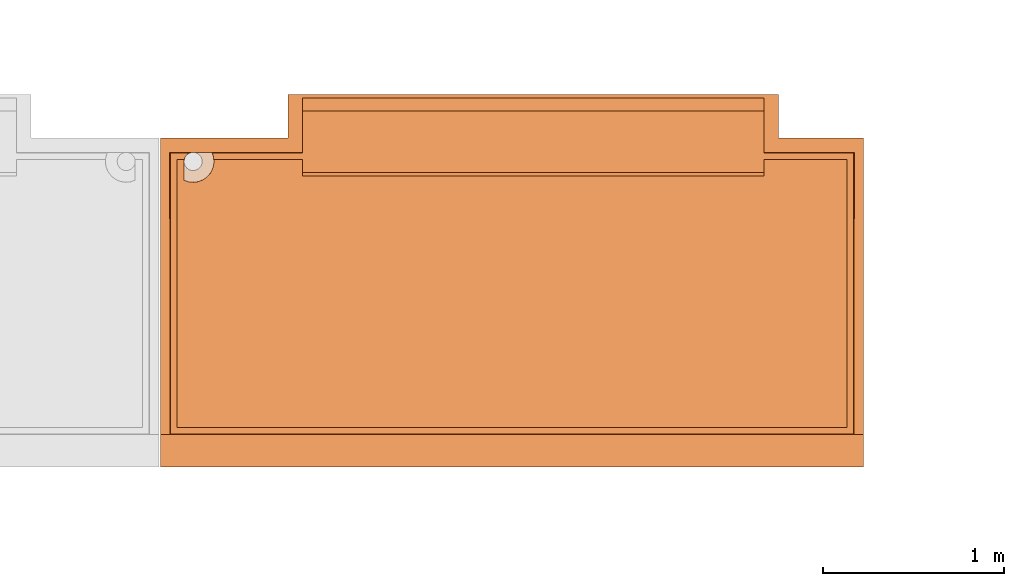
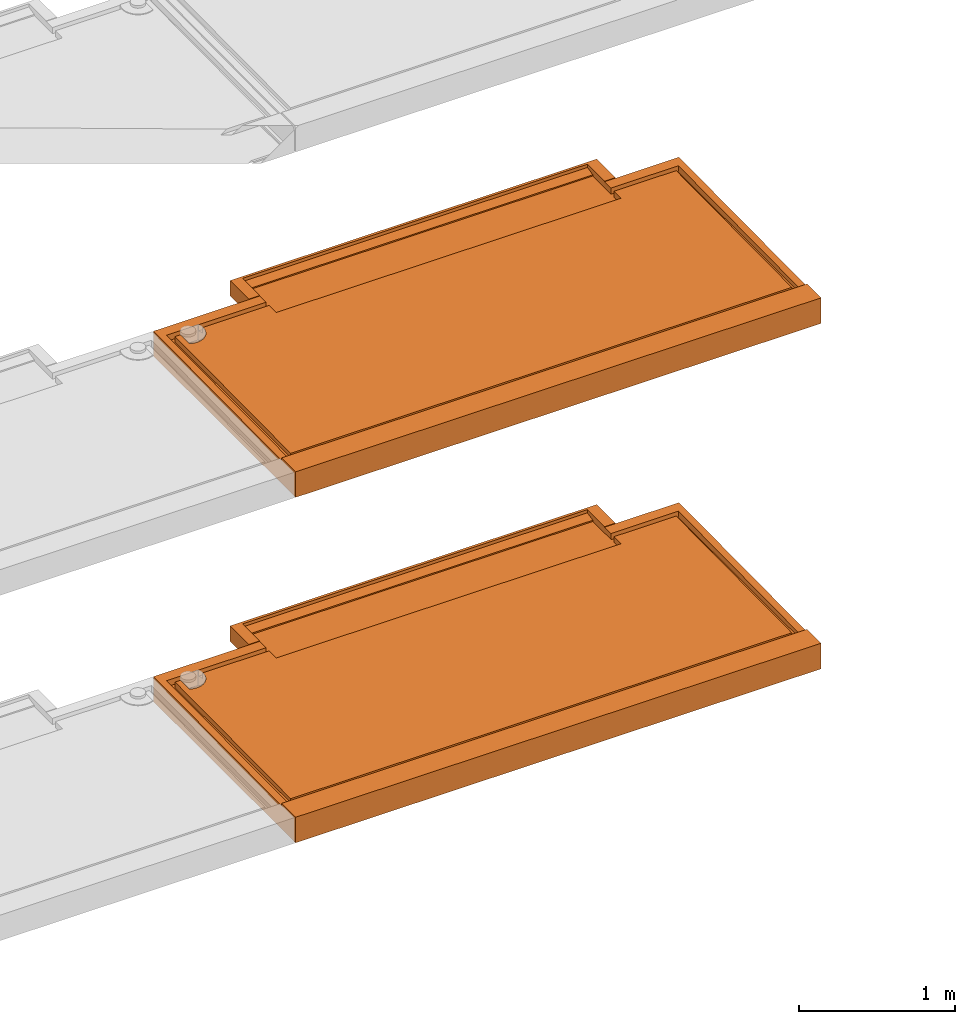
# One storey, part 11 of 31: 2 proxies, 2 elements without a shape of their own.
"""IFC2X3 building model written with IfcOpenShell, lengths in centimetres."""

from ifc_helpers import new_model, entity, si_unit, converted_unit, derived_unit, direction, frame, origin, place, context, subcontext, project, spatial, faceted_brep, source, transform, mapped, material, type_object, type_shapes, element, aggregate, save


model = new_model("IFC2X3")

# Units and contexts
model_context = context("Model", 3, precision=0.001, world=origin(), true_north=direction((6.12303176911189e-17, 1.0)))
body_context = subcontext(model_context, "Body", "Model", "MODEL_VIEW")
ifc_project = project(units=[si_unit("LENGTHUNIT", "METRE", prefix="CENTI"), si_unit("AREAUNIT", "SQUARE_METRE"), si_unit("VOLUMEUNIT", "CUBIC_METRE"), converted_unit("PLANEANGLEUNIT", "DEGREE", entity("IfcRatioMeasure", 0.0174532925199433), si_unit("PLANEANGLEUNIT", "RADIAN"), dimensions=[0, 0, 0, 0, 0, 0, 0]), si_unit("MASSUNIT", "GRAM", prefix="KILO"), derived_unit("MASSDENSITYUNIT", [(si_unit("MASSUNIT", "GRAM", prefix="KILO"), 1), (si_unit("LENGTHUNIT", "METRE"), -3)]), si_unit("TIMEUNIT", "SECOND"), si_unit("FREQUENCYUNIT", "HERTZ"), si_unit("THERMODYNAMICTEMPERATUREUNIT", "DEGREE_CELSIUS"), derived_unit("THERMALTRANSMITTANCEUNIT", [(si_unit("MASSUNIT", "GRAM", prefix="KILO"), 1), (si_unit("THERMODYNAMICTEMPERATUREUNIT", "KELVIN"), -1), (si_unit("TIMEUNIT", "SECOND"), -3)]), derived_unit("VOLUMETRICFLOWRATEUNIT", [(si_unit("LENGTHUNIT", "METRE"), 3), (si_unit("TIMEUNIT", "SECOND"), -1)]), si_unit("ELECTRICCURRENTUNIT", "AMPERE"), si_unit("ELECTRICVOLTAGEUNIT", "VOLT"), si_unit("POWERUNIT", "WATT"), si_unit("FORCEUNIT", "NEWTON"), si_unit("ILLUMINANCEUNIT", "LUX"), si_unit("LUMINOUSFLUXUNIT", "LUMEN"), si_unit("LUMINOUSINTENSITYUNIT", "CANDELA"), derived_unit("USERDEFINED", [(si_unit("MASSUNIT", "GRAM", prefix="KILO"), -1), (si_unit("LENGTHUNIT", "METRE"), -2), (si_unit("TIMEUNIT", "SECOND"), 3), (si_unit("LUMINOUSFLUXUNIT", "LUMEN"), 1)]), derived_unit("LINEARVELOCITYUNIT", [(si_unit("LENGTHUNIT", "METRE"), 1), (si_unit("TIMEUNIT", "SECOND"), -1)]), si_unit("PRESSUREUNIT", "PASCAL"), derived_unit("USERDEFINED", [(si_unit("LENGTHUNIT", "METRE"), -2), (si_unit("MASSUNIT", "GRAM", prefix="KILO"), 1), (si_unit("TIMEUNIT", "SECOND"), -2)])], contexts=[model_context])

# Site, building, storey
site_placement = place(None, origin())
site = spatial("IfcSite", under=ifc_project, at=site_placement, Name="Default", CompositionType="ELEMENT")
building_placement = place(site_placement, origin())
building = spatial("IfcBuilding", under=site, at=building_placement, Name="CAGE 03", CompositionType="ELEMENT")
storey_placement = place(building_placement, frame((0.0, 0.0, -400.0)))
storey = spatial("IfcBuildingStorey", under=building, at=storey_placement, Name="±0.00", CompositionType="ELEMENT", Elevation=-400.0)

# Assembly, proxy
assembly_1_placement = place(storey_placement, origin())
assembly_1 = element("IfcElementAssembly", 1, at=assembly_1_placement, inside=storey, Name="Assemblage Modèles génériques:BALCON TYPE 04", ObjectType="Assemblage Modèles génériques:BALCON TYPE 04", AssemblyPlace="NOTDEFINED", PredefinedType="USERDEFINED")
ifc_material = material(Name="Béton, panneaux préfa 30/37")
building_element_proxy_type_1 = type_object("IfcBuildingElementProxyType", Name="balcon préfa type 04", PredefinedType="NOTDEFINED", material=ifc_material)
shared_shape_1 = source(origin(), body_context, "Body", "Brep", [
    faceted_brep([(5.4374433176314, 173.562556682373, 15.0), (5.43744331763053, 18.437443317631, 15.0), (383.062556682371, 18.4374433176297, 15.0), (383.062556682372, 173.562556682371, 15.0), (333.500000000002, 173.562556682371, 15.0), (333.500000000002, 197.0, 15.0), (78.5000000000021, 197.0, 15.0), (78.5000000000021, 173.562556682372, 15.0), (28.556186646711, 173.562556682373, 15.0), (29.1495236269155, 171.817467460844, 15.0), (29.4564392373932, 170.0, 15.0), (78.5000000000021, 170.0, 15.0), (78.5000000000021, 163.0, 15.0), (333.500000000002, 163.0, 15.0), (333.500000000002, 170.0, 15.0), (379.500000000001, 170.0, 15.0), (379.5, 22.0, 15.0), (9.0, 22.0, 15.0), (9.0, 170.0, 15.0), (13.1010205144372, 170.0, 15.0), (13.4727634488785, 171.122293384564, 15.0), (14.0976215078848, 172.125930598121, 15.0), (14.9406592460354, 172.954798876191, 15.0), (15.9547429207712, 173.562556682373, 15.0), (70.5000000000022, 182.0, 20.0), (78.5000000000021, 182.0, 20.0), (78.5000000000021, 204.0, 20.0), (333.500000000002, 204.0, 20.0), (333.500000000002, 182.0, 20.0), (341.500000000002, 182.0, 20.0), (341.500000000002, 198.0, 20.0), (341.500000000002, 206.0, 20.0), (70.5000000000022, 206.0, 20.0), (70.5000000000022, 198.0, 20.0), (388.500000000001, 0.0, 20.0), (388.5, 18.0, 20.0), (0.0, 18.0, 20.0), (0.0, 0.0, 20.0), (70.5000000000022, 206.0, 8.0), (341.500000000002, 206.0, 8.0), (4.0, 180.0, 0.0), (14.46446609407, 172.535533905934, 0.0), (13.6698729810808, 171.500000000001, 0.0), (13.1703708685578, 170.294095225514, 0.0), (15.5000000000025, 173.330127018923, 0.0), (4.0, 182.0, 0.0), (13.0, 169.0, 0.0), (13.1703708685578, 167.705904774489, 0.0), (13.6698729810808, 166.500000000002, 0.0), (4.0, 4.0, 0.0), (16.7059047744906, 173.829629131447, 0.0), (18.0, 174.0, 0.0), (19.294095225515, 173.829629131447, 0.0), (20.5000000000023, 173.330127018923, 0.0), (384.500000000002, 182.0, 0.0), (21.5355339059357, 172.535533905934, 0.0), (22.3301270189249, 171.500000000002, 0.0), (22.8296291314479, 170.294095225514, 0.0), (23.0, 169.0, 0.0), (384.500000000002, 180.0, 0.0), (22.8296291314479, 167.705904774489, 0.0), (384.500000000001, 4.0, 0.0), (22.3301270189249, 166.500000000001, 0.0), (14.46446609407, 165.464466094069, 0.0), (15.5000000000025, 164.669872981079, 0.0), (16.7059047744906, 164.170370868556, 0.0), (18.0, 164.0, 0.0), (19.294095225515, 164.170370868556, 0.0), (20.5000000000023, 164.669872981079, 0.0), (21.5355339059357, 165.464466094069, 0.0), (0.0, 182.0, 0.0), (3.0, 182.0, 0.0), (3.0, 180.0, 0.0), (3.0, 3.0, 0.0), (385.500000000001, 3.0, 0.0), (385.500000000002, 180.0, 0.0), (385.500000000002, 182.0, 0.0), (388.500000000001, 182.0, 0.0), (388.500000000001, 180.0, 0.0), (388.500000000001, 0.0, 0.0), (0.0, 0.0, 0.0), (0.0, 180.0, 0.0), (5.04116008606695, 173.958839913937, 19.5295380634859), (17.3597604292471, 173.958839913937, 19.5295380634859), (17.6792193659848, 173.989699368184, 19.529846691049), (18.0, 174.0, 19.5299497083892), (28.3561575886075, 174.0, 19.5299497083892), (28.3660638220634, 173.979429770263, 19.5297439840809), (28.3759291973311, 173.958839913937, 19.5295380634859), (78.5000000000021, 173.958839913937, 19.5295380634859), (78.5000000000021, 180.0, 19.5899561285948), (78.5000000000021, 182.0, 19.6099582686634), (70.5000000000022, 182.0, 19.6099582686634), (0.0, 182.0, 19.6099582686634), (0.0, 180.0, 19.5899561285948), (0.0, 18.1774657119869, 17.9715576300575), (5.1774657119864, 18.1774657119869, 17.9715576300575), (9.0, 22.0, 18.0097870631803), (379.5, 22.0, 18.0097870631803), (379.5, 170.0, 19.4899454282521), (333.500000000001, 170.0, 19.4899454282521), (333.500000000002, 161.001802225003, 19.3999538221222), (78.5000000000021, 161.001802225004, 19.3999538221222), (78.5000000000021, 170.0, 19.4899454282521), (29.4564392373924, 170.0, 19.4899454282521), (29.3757731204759, 167.314240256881, 19.463084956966), (28.6740790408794, 164.720509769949, 19.4371448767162), (27.3896639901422, 162.360405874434, 19.413541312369), (25.5926469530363, 160.362771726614, 19.3935628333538), (23.3811309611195, 158.836662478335, 19.3783001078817), (20.8758474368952, 157.865391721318, 19.3685863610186), (18.2135652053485, 157.501983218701, 19.3649518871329), (15.5396239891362, 157.76627622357, 19.3675950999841), (13.0, 158.643842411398, 19.3763717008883), (13.0, 169.0, 19.4799443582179), (13.0253192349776, 169.502544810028, 19.4849703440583), (13.1010205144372, 170.0, 19.4899454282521), (9.0, 170.0, 19.4899454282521), (333.500000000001, 180.0, 19.5899561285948), (333.500000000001, 173.958839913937, 19.5295380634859), (383.458839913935, 173.958839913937, 19.5295380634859), (383.322534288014, 18.1774657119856, 17.9715576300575), (388.5, 18.177465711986, 17.9715576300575), (388.500000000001, 180.0, 19.5899561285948), (388.500000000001, 182.0, 19.6099582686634), (341.500000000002, 182.0, 19.6099582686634), (333.500000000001, 182.0, 19.6099582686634), (333.500000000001, 197.0, 15.9713250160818), (333.500000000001, 204.0, 17.4999999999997), (333.500000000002, 163.0, 16.9198129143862), (333.500000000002, 161.026803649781, 16.9000788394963), (16.2941522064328, 173.700008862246, 16.5710856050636), (16.6427110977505, 173.812251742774, 17.8540276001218), (16.9985500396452, 173.898683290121, 18.8419447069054), (28.3874297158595, 173.934178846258, 19.2476607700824), (28.398930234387, 173.909517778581, 18.9657834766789), (28.4219312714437, 173.860195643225, 18.4020288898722), (28.4679333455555, 173.761551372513, 17.2745197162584), (28.5120599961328, 173.662054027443, 16.137259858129), (4.0, 4.0, 1.46630765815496), (384.5, 4.0, 1.46630765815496), (385.5, 3.0, 1.0), (3.0, 3.0, 1.0), (78.5000000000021, 204.0, 17.4999999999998), (70.5000000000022, 198.0, 8.0), (341.500000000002, 198.0, 8.0), (341.500000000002, 182.0, 8.0), (70.5000000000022, 182.0, 8.0), (385.500000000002, 182.0, 1.0), (384.500000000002, 182.0, 1.46630765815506), (4.0, 182.0, 1.46630765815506), (3.0, 182.0, 1.0), (78.5000000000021, 197.0, 15.9713250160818), (78.5000000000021, 161.026803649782, 16.9000788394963), (78.5000000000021, 163.0, 16.9198129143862), (385.500000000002, 180.0, 1.0), (384.500000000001, 180.0, 1.46630765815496), (3.0, 180.0, 1.0), (4.0, 180.0, 1.46630765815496), (15.6842282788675, 157.735578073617, 7.69999999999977), (18.509066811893, 157.511272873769, 7.69999999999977), (21.3029955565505, 157.984546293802, 7.69999999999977), (23.8963712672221, 159.12666186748, 7.69999999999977), (26.1317279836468, 160.868272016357, 7.69999999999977), (27.8733381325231, 163.103628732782, 7.69999999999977), (29.0154537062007, 165.697004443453, 7.69999999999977), (29.4887271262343, 168.490933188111, 7.69999999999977), (29.2644219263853, 171.315771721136, 7.69999999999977), (28.3561575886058, 174.0, 7.69999999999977), (18.0, 174.0, 7.69999999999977), (19.2940952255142, 173.829629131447, 7.69999999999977), (20.5000000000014, 173.330127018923, 7.69999999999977), (21.535533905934, 172.535533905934, 7.69999999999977), (22.3301270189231, 171.500000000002, 7.69999999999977), (22.8296291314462, 170.294095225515, 7.69999999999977), (23.0, 169.0, 7.69999999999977), (22.829629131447, 167.70590477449, 7.69999999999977), (22.330127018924, 166.500000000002, 7.69999999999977), (21.5355339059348, 165.464466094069, 7.69999999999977), (20.5000000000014, 164.669872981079, 7.69999999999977), (19.2940952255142, 164.170370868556, 7.69999999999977), (18.0, 164.0, 7.69999999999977), (16.7059047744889, 164.170370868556, 7.69999999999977), (15.5000000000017, 164.669872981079, 7.69999999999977), (14.4644660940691, 165.464466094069, 7.69999999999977), (13.66987298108, 166.500000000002, 7.69999999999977), (13.1703708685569, 167.705904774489, 7.69999999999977), (13.0, 169.0, 7.69999999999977), (13.0, 158.643842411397, 7.69999999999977), (28.3561575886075, 174.0, 15.0937185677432), (28.3561575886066, 174.0, 16.5724622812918), (28.3561575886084, 174.0, 18.0512059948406), (28.3561575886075, 174.0, 13.6149748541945), (28.3561575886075, 174.0, 18.7905778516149), (28.3561575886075, 174.0, 19.1602637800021)], [[[0, 1, 2, 3, 4, 5, 6, 7, 8, 9, 10, 11, 12, 13, 14, 15, 16, 17, 18, 19, 20, 21, 22, 23]], [[24, 25, 26, 27, 28, 29, 30, 31, 32, 33]], [[34, 35, 36, 37]], [[38, 32, 31, 39]], [[40, 41, 42]], [[40, 42, 43]], [[44, 41, 40]], [[44, 40, 45]], [[43, 46, 40]], [[47, 40, 46]], [[40, 47, 48]], [[40, 48, 49]], [[50, 44, 45]], [[51, 50, 45]], [[45, 52, 51]], [[52, 45, 53]], [[45, 54, 53]], [[55, 53, 54]], [[54, 56, 55]], [[57, 56, 54]], [[57, 54, 58]], [[54, 59, 58]], [[58, 59, 60]], [[59, 61, 60]], [[61, 49, 62]], [[61, 62, 60]], [[48, 63, 49]], [[63, 64, 49]], [[64, 65, 49]], [[66, 49, 65]], [[67, 49, 66]], [[68, 49, 67]], [[49, 68, 69]], [[62, 49, 69]], [[70, 71, 72, 73, 74, 75, 76, 77, 78, 79, 80, 81]], [[37, 80, 79, 34]], [[82, 83, 84, 85, 86, 87, 88, 89, 90, 91, 92, 93, 94, 95, 96]], [[97, 98, 99, 100, 101, 102, 103, 104, 105, 106, 107, 108, 109, 110, 111, 112, 113, 114, 115, 116, 117]], [[118, 119, 120, 121, 122, 123, 124, 125, 126]], [[78, 77, 124, 123, 122, 35, 34, 79]], [[121, 2, 1, 96, 95, 36, 35, 122]], [[127, 5, 4, 119, 118, 126, 28, 27, 128]], [[100, 14, 13, 129, 130, 101]], [[23, 131, 132, 133, 83, 82, 0]], [[3, 120, 119, 4]], [[89, 88, 134, 135, 136, 137, 138, 8, 7]], [[17, 16, 98, 97]], [[139, 140, 141, 142]], [[26, 143, 128, 27]], [[144, 38, 39, 145, 146, 147]], [[93, 92, 147, 146, 125, 124, 77, 76, 148, 149, 54, 45, 150, 151, 71, 70]], [[143, 26, 25, 91, 90, 89, 7, 6, 152]], [[103, 102, 153, 154, 12, 11]], [[116, 19, 18, 117]], [[15, 14, 100, 99]], [[103, 11, 10, 104]], [[139, 49, 61, 140]], [[152, 6, 5, 127]], [[18, 17, 97, 117]], [[153, 102, 101, 130]], [[154, 153, 130, 129]], [[12, 154, 129, 13]], [[80, 37, 36, 95, 94, 93, 70, 81]], [[142, 141, 74, 73]], [[143, 152, 127, 128]], [[0, 82, 96, 1]], [[29, 28, 126, 125]], [[25, 24, 92, 91]], [[76, 75, 74, 141, 155, 148]], [[156, 140, 61, 59, 54, 149]], [[155, 141, 140, 156, 149, 148]], [[73, 72, 71, 151, 157, 142]], [[158, 150, 45, 40, 49, 139]], [[139, 142, 157, 151, 150, 158]], [[98, 16, 15, 99]], [[121, 120, 3, 2]], [[30, 29, 125, 146, 145, 39, 31]], [[33, 32, 38, 144, 147, 92, 24]], [[159, 160, 161, 162, 163, 164, 165, 166, 167, 168, 169, 170, 171, 172, 173, 174, 175, 176, 177, 178, 179, 180, 181, 182, 183, 184, 185, 186, 187, 188]], [[187, 114, 113, 188]], [[159, 188, 112]], [[159, 111, 160]], [[108, 163, 162]], [[162, 161, 109]], [[161, 160, 110]], [[164, 163, 107]], [[8, 138, 189]], [[188, 113, 112]], [[159, 112, 111]], [[189, 138, 190]], [[191, 190, 137]], [[161, 110, 109]], [[138, 137, 190]], [[163, 108, 107]], [[108, 162, 109]], [[189, 192, 8]], [[110, 160, 111]], [[88, 87, 134]], [[107, 106, 164]], [[166, 165, 105]], [[167, 166, 10]], [[10, 166, 105]], [[9, 168, 167]], [[193, 191, 136]], [[192, 168, 9]], [[192, 9, 8]], [[10, 9, 167]], [[194, 134, 87]], [[105, 165, 106]], [[104, 10, 105]], [[87, 86, 194]], [[136, 191, 137]], [[136, 135, 193]], [[135, 134, 194]], [[194, 193, 135]], [[164, 106, 165]], [[85, 169, 168, 192, 189, 190, 191, 193, 194, 86]], [[48, 47, 186, 185]], [[48, 185, 184, 63]], [[65, 64, 183, 182]], [[184, 183, 64, 63]], [[66, 65, 182, 181]], [[46, 187, 186, 47]], [[68, 67, 180, 179]], [[68, 179, 178, 69]], [[60, 62, 177, 176]], [[178, 177, 62, 69]], [[58, 60, 176, 175]], [[181, 180, 67, 66]], [[57, 174, 173, 56]], [[58, 175, 174, 57]], [[171, 170, 52, 53]], [[53, 55, 172, 171]], [[55, 56, 173, 172]], [[51, 52, 170, 169]], [[85, 84, 169]], [[83, 169, 84]], [[133, 169, 83]], [[50, 51, 169]], [[23, 44, 50]], [[44, 23, 22]], [[22, 41, 44]], [[131, 23, 50]], [[187, 46, 43]], [[42, 41, 21]], [[42, 20, 43]], [[22, 21, 41]], [[43, 19, 187]], [[132, 50, 133]], [[131, 50, 132]], [[42, 21, 20]], [[116, 115, 19]], [[115, 187, 19]], [[115, 114, 187]], [[20, 19, 43]], [[169, 133, 50]]]),
])
type_shapes(building_element_proxy_type_1, [shared_shape_1])
proxy_1_placement = place(assembly_1_placement, frame((7081.86582014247, 3796.6606660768, 990.0)))
proxy_1 = element("IfcBuildingElementProxy", 2, at=proxy_1_placement, type_object=building_element_proxy_type_1, material=ifc_material, Name="BY_STR_Balcon_préfa_04:balcon préfa type 04", ObjectType="balcon préfa type 04", context=body_context, shape_type="MappedRepresentation", body=[
    mapped(shared_shape_1, transform((0.0, 0.0, 0.0), scale=1.0)),
])
aggregate(assembly_1, [proxy_1])

assembly_2_placement = place(storey_placement, origin())
assembly_2 = element("IfcElementAssembly", 3, at=assembly_2_placement, inside=storey, Name="Assemblage Modèles génériques:BALCON TYPE 04", ObjectType="Assemblage Modèles génériques:BALCON TYPE 04", AssemblyPlace="NOTDEFINED", PredefinedType="USERDEFINED")
building_element_proxy_type_2 = type_object("IfcBuildingElementProxyType", Name="balcon préfa type 04", PredefinedType="NOTDEFINED", material=ifc_material)
shared_shape_2 = source(origin(), body_context, "Body", "Brep", [
    faceted_brep([(5.4374433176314, 173.562556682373, 15.0), (5.43744331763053, 18.437443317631, 15.0), (383.062556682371, 18.4374433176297, 15.0), (383.062556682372, 173.562556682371, 15.0), (333.500000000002, 173.562556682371, 15.0), (333.500000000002, 197.0, 15.0), (78.5000000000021, 197.0, 15.0), (78.5000000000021, 173.562556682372, 15.0), (28.5561866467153, 173.562556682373, 15.0), (29.1495236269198, 171.817467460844, 15.0), (29.4564392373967, 170.0, 15.0), (78.5000000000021, 170.0, 15.0), (78.5000000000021, 163.0, 15.0), (333.500000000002, 163.0, 15.0), (333.500000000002, 170.0, 15.0), (379.500000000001, 170.0, 15.0), (379.5, 22.0, 15.0), (9.0, 22.0, 15.0), (9.0, 170.0, 15.0), (13.1010205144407, 170.0, 15.0), (13.4727634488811, 171.122293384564, 15.0), (14.0976215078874, 172.12593059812, 15.0), (14.940659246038, 172.954798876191, 15.0), (15.9547429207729, 173.562556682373, 15.0), (70.5000000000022, 182.0, 20.0), (78.5000000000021, 182.0, 20.0), (78.5000000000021, 204.0, 20.0), (333.500000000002, 204.0, 20.0), (333.500000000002, 182.0, 20.0), (341.500000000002, 182.0, 20.0), (341.500000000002, 198.0, 20.0), (341.500000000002, 206.0, 20.0), (70.5000000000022, 206.0, 20.0), (70.5000000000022, 198.0, 20.0), (388.500000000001, 0.0, 20.0), (388.5, 18.0, 20.0), (0.0, 18.0, 20.0), (0.0, 0.0, 20.0), (70.5000000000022, 206.0, 8.0), (341.500000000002, 206.0, 8.0), (4.0, 180.0, 0.0), (14.4644660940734, 172.535533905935, 0.0), (13.6698729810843, 171.500000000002, 0.0), (13.1703708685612, 170.294095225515, 0.0), (15.500000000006, 173.330127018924, 0.0), (4.0, 182.0, 0.0), (13.0, 169.0, 0.0), (13.1703708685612, 167.70590477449, 0.0), (13.6698729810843, 166.500000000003, 0.0), (4.0, 4.0, 0.0), (16.7059047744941, 173.829629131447, 0.0), (18.0, 174.0, 0.0), (19.2940952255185, 173.829629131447, 0.0), (20.5000000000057, 173.330127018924, 0.0), (384.500000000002, 182.0, 0.0), (21.5355339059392, 172.535533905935, 0.0), (22.3301270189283, 171.500000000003, 0.0), (22.8296291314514, 170.294095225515, 0.0), (23.0, 169.0, 0.0), (384.500000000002, 180.0, 0.0), (22.8296291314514, 167.70590477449, 0.0), (384.500000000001, 4.0, 0.0), (22.3301270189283, 166.500000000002, 0.0), (14.4644660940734, 165.464466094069, 0.0), (15.500000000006, 164.66987298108, 0.0), (16.7059047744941, 164.170370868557, 0.0), (18.0, 164.0, 0.0), (19.2940952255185, 164.170370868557, 0.0), (20.5000000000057, 164.66987298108, 0.0), (21.5355339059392, 165.464466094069, 0.0), (0.0, 182.0, 0.0), (3.0, 182.0, 0.0), (3.0, 180.0, 0.0), (3.0, 3.0, 0.0), (385.500000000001, 3.0, 0.0), (385.500000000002, 180.0, 0.0), (385.500000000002, 182.0, 0.0), (388.500000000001, 182.0, 0.0), (388.500000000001, 180.0, 0.0), (388.500000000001, 0.0, 0.0), (0.0, 0.0, 0.0), (0.0, 180.0, 0.0), (5.04116008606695, 173.958839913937, 19.5295380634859), (17.3597604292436, 173.958839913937, 19.5295380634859), (17.6792193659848, 173.989699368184, 19.529846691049), (18.0, 174.0, 19.5299497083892), (28.3561575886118, 174.0, 19.5299497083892), (28.3660638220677, 173.979429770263, 19.5297439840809), (28.3759291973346, 173.958839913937, 19.5295380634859), (78.5000000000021, 173.958839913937, 19.5295380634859), (78.5000000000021, 180.0, 19.5899561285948), (78.5000000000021, 182.0, 19.6099582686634), (70.5000000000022, 182.0, 19.6099582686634), (0.0, 182.0, 19.6099582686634), (0.0, 180.0, 19.5899561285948), (0.0, 18.1774657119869, 17.9715576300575), (5.1774657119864, 18.1774657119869, 17.9715576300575), (9.0, 22.0, 18.0097870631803), (379.5, 22.0, 18.0097870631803), (379.5, 170.0, 19.4899454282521), (333.500000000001, 170.0, 19.4899454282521), (333.500000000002, 161.001802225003, 19.3999538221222), (78.5000000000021, 161.001802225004, 19.3999538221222), (78.5000000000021, 170.0, 19.4899454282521), (29.4564392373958, 170.0, 19.4899454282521), (29.3757731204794, 167.314240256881, 19.463084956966), (28.6740790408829, 164.720509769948, 19.4371448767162), (27.3896639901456, 162.360405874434, 19.413541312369), (25.5926469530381, 160.362771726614, 19.3935628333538), (23.3811309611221, 158.836662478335, 19.3783001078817), (20.8758474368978, 157.865391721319, 19.3685863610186), (18.2135652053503, 157.501983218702, 19.3649518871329), (15.5396239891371, 157.766276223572, 19.3675950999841), (13.0, 158.643842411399, 19.3763717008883), (13.0, 169.0, 19.4799443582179), (13.0253192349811, 169.502544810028, 19.4849703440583), (13.1010205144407, 170.0, 19.4899454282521), (9.0, 170.0, 19.4899454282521), (333.500000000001, 180.0, 19.5899561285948), (333.500000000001, 173.958839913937, 19.5295380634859), (383.458839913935, 173.958839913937, 19.5295380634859), (383.322534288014, 18.1774657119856, 17.9715576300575), (388.5, 18.177465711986, 17.9715576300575), (388.500000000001, 180.0, 19.5899561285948), (388.500000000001, 182.0, 19.6099582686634), (341.500000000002, 182.0, 19.6099582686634), (333.500000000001, 182.0, 19.6099582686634), (333.500000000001, 197.0, 15.9713250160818), (333.500000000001, 204.0, 17.4999999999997), (333.500000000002, 163.0, 16.9198129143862), (333.500000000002, 161.026803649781, 16.9000788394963), (16.2941522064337, 173.700008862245, 16.5710856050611), (16.6427110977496, 173.812251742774, 17.854027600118), (16.9985500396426, 173.898683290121, 18.8419447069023), (28.387429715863, 173.934178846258, 19.2476607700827), (28.3989302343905, 173.909517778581, 18.9657834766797), (28.4219312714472, 173.860195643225, 18.4020288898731), (28.4679333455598, 173.761551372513, 17.2745197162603), (28.5120599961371, 173.662054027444, 16.1372598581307), (4.0, 4.0, 1.46630765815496), (384.5, 4.0, 1.46630765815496), (385.5, 3.0, 1.0), (3.0, 3.0, 1.0), (78.5000000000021, 204.0, 17.4999999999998), (70.5000000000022, 198.0, 8.0), (341.500000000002, 198.0, 8.0), (341.500000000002, 182.0, 8.0), (70.5000000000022, 182.0, 8.0), (385.500000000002, 182.0, 1.0), (384.500000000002, 182.0, 1.46630765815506), (4.0, 182.0, 1.46630765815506), (3.0, 182.0, 1.0), (78.5000000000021, 197.0, 15.9713250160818), (78.5000000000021, 161.026803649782, 16.9000788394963), (78.5000000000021, 163.0, 16.9198129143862), (385.500000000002, 180.0, 1.0), (384.500000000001, 180.0, 1.46630765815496), (3.0, 180.0, 1.0), (4.0, 180.0, 1.46630765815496), (15.6842282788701, 157.735578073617, 7.69999999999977), (18.5090668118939, 157.511272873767, 7.69999999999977), (21.3029955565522, 157.984546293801, 7.69999999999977), (23.896371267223, 159.126661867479, 7.69999999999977), (26.1317279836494, 160.868272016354, 7.69999999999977), (27.8733381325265, 163.10362873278, 7.69999999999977), (29.0154537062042, 165.697004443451, 7.69999999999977), (29.4887271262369, 168.490933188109, 7.69999999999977), (29.2644219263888, 171.315771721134, 7.69999999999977), (28.3561575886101, 174.0, 7.69999999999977), (18.0, 174.0, 7.69999999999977), (19.2940952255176, 173.829629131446, 7.69999999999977), (20.5000000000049, 173.330127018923, 7.69999999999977), (21.5355339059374, 172.535533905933, 7.69999999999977), (22.3301270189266, 171.500000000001, 7.69999999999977), (22.8296291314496, 170.294095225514, 7.69999999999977), (23.0, 169.0, 7.69999999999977), (22.8296291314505, 167.705904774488, 7.69999999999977), (22.3301270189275, 166.500000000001, 7.69999999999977), (21.5355339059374, 165.464466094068, 7.69999999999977), (20.5000000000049, 164.669872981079, 7.69999999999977), (19.2940952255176, 164.170370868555, 7.69999999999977), (18.0, 164.0, 7.69999999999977), (16.7059047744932, 164.170370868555, 7.69999999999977), (15.500000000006, 164.669872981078, 7.69999999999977), (14.4644660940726, 165.464466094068, 7.69999999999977), (13.6698729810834, 166.5, 7.69999999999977), (13.1703708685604, 167.705904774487, 7.69999999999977), (13.0, 169.0, 7.69999999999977), (13.0, 158.643842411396, 7.69999999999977), (28.3561575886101, 174.0, 15.0937185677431), (28.3561575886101, 174.0, 16.5724622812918), (28.356157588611, 174.0, 18.0512059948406), (28.356157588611, 174.0, 13.6149748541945), (28.356157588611, 174.0, 18.7905778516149), (28.356157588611, 174.0, 19.1602637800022)], [[[0, 1, 2, 3, 4, 5, 6, 7, 8, 9, 10, 11, 12, 13, 14, 15, 16, 17, 18, 19, 20, 21, 22, 23]], [[24, 25, 26, 27, 28, 29, 30, 31, 32, 33]], [[34, 35, 36, 37]], [[38, 32, 31, 39]], [[40, 41, 42]], [[40, 42, 43]], [[44, 41, 40]], [[44, 40, 45]], [[43, 46, 40]], [[47, 40, 46]], [[40, 47, 48]], [[40, 48, 49]], [[50, 44, 45]], [[51, 50, 45]], [[45, 52, 51]], [[52, 45, 53]], [[45, 54, 53]], [[55, 53, 54]], [[54, 56, 55]], [[57, 56, 54]], [[57, 54, 58]], [[54, 59, 58]], [[58, 59, 60]], [[59, 61, 60]], [[61, 49, 62]], [[61, 62, 60]], [[48, 63, 49]], [[63, 64, 49]], [[64, 65, 49]], [[66, 49, 65]], [[67, 49, 66]], [[68, 49, 67]], [[49, 68, 69]], [[62, 49, 69]], [[70, 71, 72, 73, 74, 75, 76, 77, 78, 79, 80, 81]], [[37, 80, 79, 34]], [[82, 83, 84, 85, 86, 87, 88, 89, 90, 91, 92, 93, 94, 95, 96]], [[97, 98, 99, 100, 101, 102, 103, 104, 105, 106, 107, 108, 109, 110, 111, 112, 113, 114, 115, 116, 117]], [[118, 119, 120, 121, 122, 123, 124, 125, 126]], [[78, 77, 124, 123, 122, 35, 34, 79]], [[121, 2, 1, 96, 95, 36, 35, 122]], [[127, 5, 4, 119, 118, 126, 28, 27, 128]], [[100, 14, 13, 129, 130, 101]], [[23, 131, 132, 133, 83, 82, 0]], [[3, 120, 119, 4]], [[89, 88, 134, 135, 136, 137, 138, 8, 7]], [[17, 16, 98, 97]], [[139, 140, 141, 142]], [[26, 143, 128, 27]], [[144, 38, 39, 145, 146, 147]], [[93, 92, 147, 146, 125, 124, 77, 76, 148, 149, 54, 45, 150, 151, 71, 70]], [[143, 26, 25, 91, 90, 89, 7, 6, 152]], [[103, 102, 153, 154, 12, 11]], [[116, 19, 18, 117]], [[15, 14, 100, 99]], [[103, 11, 10, 104]], [[139, 49, 61, 140]], [[152, 6, 5, 127]], [[18, 17, 97, 117]], [[153, 102, 101, 130]], [[154, 153, 130, 129]], [[12, 154, 129, 13]], [[80, 37, 36, 95, 94, 93, 70, 81]], [[142, 141, 74, 73]], [[143, 152, 127, 128]], [[0, 82, 96, 1]], [[29, 28, 126, 125]], [[25, 24, 92, 91]], [[76, 75, 74, 141, 155, 148]], [[156, 140, 61, 59, 54, 149]], [[155, 141, 140, 156, 149, 148]], [[73, 72, 71, 151, 157, 142]], [[158, 150, 45, 40, 49, 139]], [[139, 142, 157, 151, 150, 158]], [[98, 16, 15, 99]], [[121, 120, 3, 2]], [[30, 29, 125, 146, 145, 39, 31]], [[33, 32, 38, 144, 147, 92, 24]], [[159, 160, 161, 162, 163, 164, 165, 166, 167, 168, 169, 170, 171, 172, 173, 174, 175, 176, 177, 178, 179, 180, 181, 182, 183, 184, 185, 186, 187, 188]], [[187, 114, 113, 188]], [[159, 188, 112]], [[159, 111, 160]], [[108, 163, 162]], [[162, 161, 109]], [[161, 160, 110]], [[164, 163, 107]], [[8, 138, 189]], [[188, 113, 112]], [[159, 112, 111]], [[189, 138, 190]], [[191, 190, 137]], [[161, 110, 109]], [[138, 137, 190]], [[163, 108, 107]], [[108, 162, 109]], [[189, 192, 8]], [[110, 160, 111]], [[88, 87, 134]], [[107, 106, 164]], [[166, 165, 105]], [[167, 166, 10]], [[10, 166, 105]], [[9, 168, 167]], [[193, 191, 136]], [[192, 168, 9]], [[192, 9, 8]], [[10, 9, 167]], [[194, 134, 87]], [[105, 165, 106]], [[104, 10, 105]], [[87, 86, 194]], [[136, 191, 137]], [[136, 135, 193]], [[135, 134, 194]], [[194, 193, 135]], [[164, 106, 165]], [[85, 169, 168, 192, 189, 190, 191, 193, 194, 86]], [[48, 47, 186, 185]], [[48, 185, 184, 63]], [[65, 64, 183, 182]], [[184, 183, 64, 63]], [[66, 65, 182, 181]], [[46, 187, 186, 47]], [[68, 67, 180, 179]], [[68, 179, 178, 69]], [[60, 62, 177, 176]], [[178, 177, 62, 69]], [[58, 60, 176, 175]], [[181, 180, 67, 66]], [[57, 174, 173, 56]], [[58, 175, 174, 57]], [[171, 170, 52, 53]], [[53, 55, 172, 171]], [[55, 56, 173, 172]], [[51, 52, 170, 169]], [[85, 84, 169]], [[83, 169, 84]], [[133, 169, 83]], [[50, 51, 169]], [[23, 44, 50]], [[44, 23, 22]], [[22, 41, 44]], [[131, 23, 50]], [[187, 46, 43]], [[42, 41, 21]], [[42, 20, 43]], [[22, 21, 41]], [[43, 19, 187]], [[132, 50, 133]], [[131, 50, 132]], [[42, 21, 20]], [[116, 115, 19]], [[115, 187, 19]], [[115, 114, 187]], [[20, 19, 43]], [[169, 133, 50]]]),
])
type_shapes(building_element_proxy_type_2, [shared_shape_2])
proxy_2_placement = place(assembly_2_placement, frame((7081.86582014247, 3796.6606660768, 1260.0)))
proxy_2 = element("IfcBuildingElementProxy", 4, at=proxy_2_placement, type_object=building_element_proxy_type_2, material=ifc_material, Name="BY_STR_Balcon_préfa_04:balcon préfa type 04", ObjectType="balcon préfa type 04", context=body_context, shape_type="MappedRepresentation", body=[
    mapped(shared_shape_2, transform((0.0, 0.0, 0.0), scale=1.0)),
])
aggregate(assembly_2, [proxy_2])

save(model, "model.ifc")
